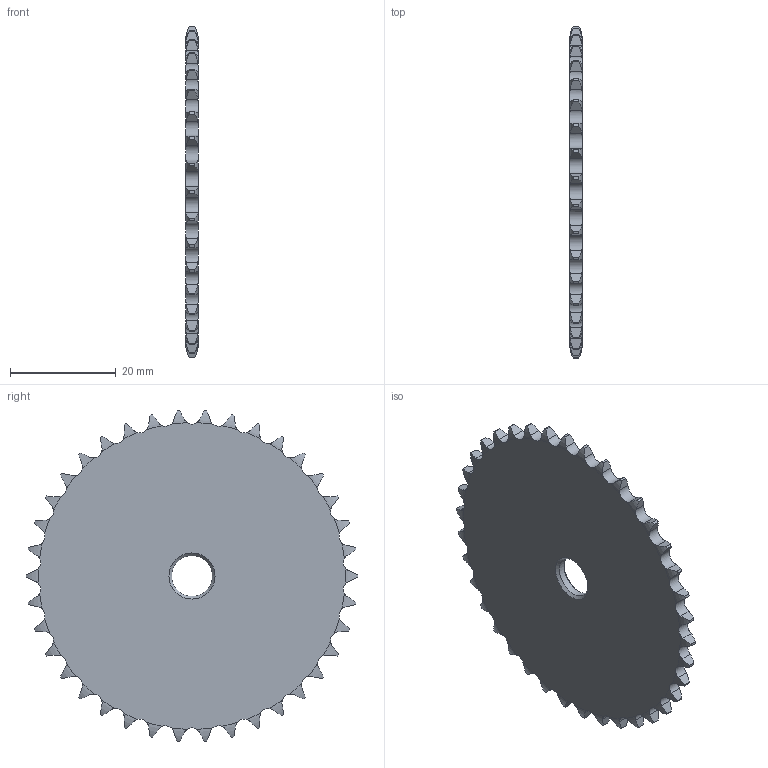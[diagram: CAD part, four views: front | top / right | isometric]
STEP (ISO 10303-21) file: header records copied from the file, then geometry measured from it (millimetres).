
FILE_DESCRIPTION(/* description */ (''),/* implementation_level */ '2;1');
FILE_NAME(/* name */ 'C:\Users\stagistaCAD\Desktop\20105038.stp',/* time_stamp */ '2018-06-26T16:23:49+02:00',/* author */ ('stagistacad'),/* organization */ (''),/* preprocessor_version */ 'ST-DEVELOPER v15.6',/* originating_system */ 'Autodesk Inventor 2015',/* authorisation */ '');
FILE_SCHEMA (('AUTOMOTIVE_DESIGN { 1 0 10303 214 3 1 1 }'));
Length unit declared in the file: millimetre
Products named in the file (1): 20105038
Bounding box: 2.3 x 62.65 x 62.47 mm (x, y, z)
Volume: 6200.9 mm3; surface area: 6062.9 mm2
Topology: 1 solids, 1 shells, 233 faces, 691 edges, 460 vertices
Faces by surface type: cylinder 153, torus 76, plane 2, cone 2
Full cylindrical faces by diameter (mm): 7.7 x1
Entity records: 8826 total; most frequent: CARTESIAN_POINT 2942, ORIENTED_EDGE 1376, DIRECTION 1084, EDGE_CURVE 688, AXIS2_PLACEMENT_3D 466, VERTEX_POINT 460, B_SPLINE_CURVE_WITH_KNOTS 304, EDGE_LOOP 238
